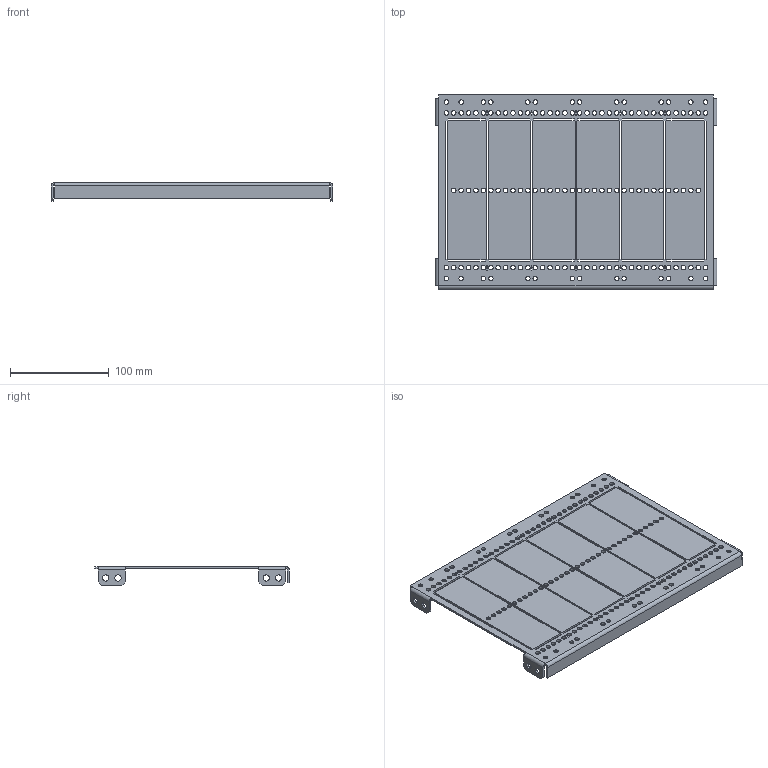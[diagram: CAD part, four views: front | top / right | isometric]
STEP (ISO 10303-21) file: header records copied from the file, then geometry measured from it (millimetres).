
FILE_DESCRIPTION(('STEP AP203'), '1');
FILE_NAME('Ïàíåëü áîêîâàÿ ôóíêöèîíàëüíîãî áëîêà Â200õÃ400 ìì OptiBox M (2 øò) 419065 ÊÝÀÇ', '', ('UNSPECIFIED'), ('UNSPECIFIED'), 'C3D Converter', 'C3D Toolkit', '');
FILE_SCHEMA(('CONFIG_CONTROL_DESIGN'));
Length unit declared in the file: millimetre
Bounding box: 285 x 197 x 19 mm (x, y, z)
Volume: 110412.5 mm3; surface area: 123021.6 mm2
Topology: 1 solids, 1 shells, 318 faces, 908 edges, 592 vertices
Faces by surface type: plane 166, cylinder 152
Full cylindrical faces by diameter (mm): 4.6 x134, 6.3 x8
Entity records: 10410 total; most frequent: DIRECTION 1708, CARTESIAN_POINT 1677, ORIENTED_EDGE 1532, EDGE_LOOP 802, EDGE_CURVE 766, AXIS2_PLACEMENT_3D 623, VERTEX_POINT 592, FACE_BOUND 518
